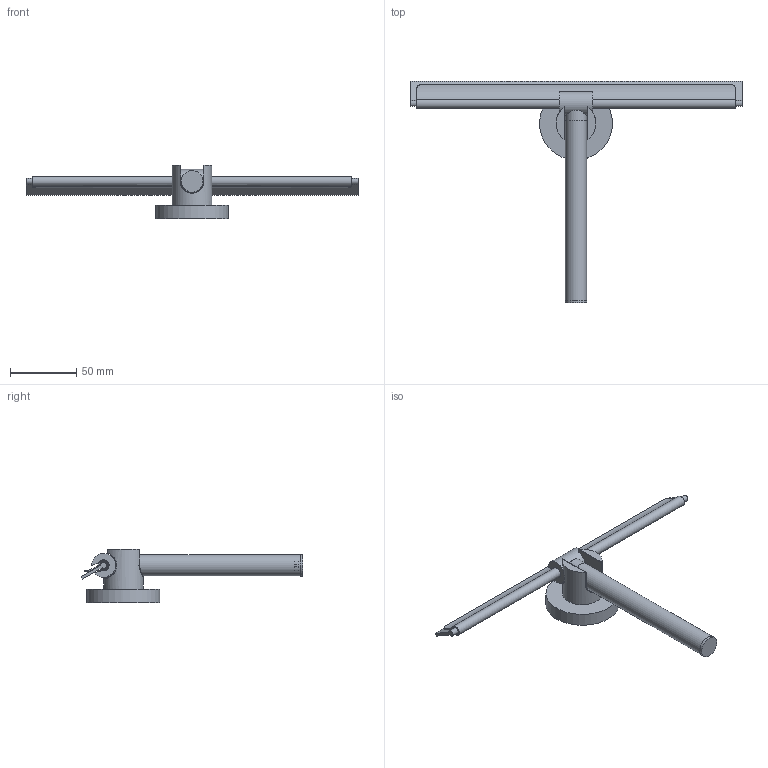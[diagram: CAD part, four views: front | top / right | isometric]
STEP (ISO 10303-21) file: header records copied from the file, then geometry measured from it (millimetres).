
FILE_DESCRIPTION(/* description */ (''),/* implementation_level */ '2;1');
FILE_NAME(/* name */ 'c:\worker\convert-fusion-r09\tmp\job-1\32\output\files\00002bc1-a06e-48b3-af6e-90d7580e99f8\c17ef3da-274d-4cc4-94eb-8e232639c95a.zip.stp',/* time_stamp */ '2020-01-09T12:33:54+00:00',/* author */ (''),/* organization */ (''),/* preprocessor_version */ 'ST-DEVELOPER v18',/* originating_system */ 'Autodesk Translation Framework v8.12.0.6',/* authorisation */ '');
FILE_SCHEMA (('AUTOMOTIVE_DESIGN { 1 0 10303 214 3 1 1 }'));
Length unit declared in the file: millimetre
Products named in the file (1): !UN10910
Bounding box: 250 x 166.91 x 40 mm (x, y, z)
Volume: 51096.5 mm3; surface area: 60109.7 mm2
Topology: 10 solids, 10 shells, 130 faces, 360 edges, 250 vertices
Faces by surface type: cylinder 60, plane 58, cone 6, bspline 6
Full cylindrical faces by diameter (mm): 3.3 x3, 4.2 x2, 5 x2, 8.5 x1, 9 x1, 10 x5, 11 x1, 13.9 x1, 14 x1, 16 x2, 16.2 x1, 30 x1, 51 x1, 55 x1
Entity records: 7170 total; most frequent: CARTESIAN_POINT 3829, ORIENTED_EDGE 720, DIRECTION 635, EDGE_CURVE 360, VERTEX_POINT 250, AXIS2_PLACEMENT_3D 246, EDGE_LOOP 146, LINE 143
